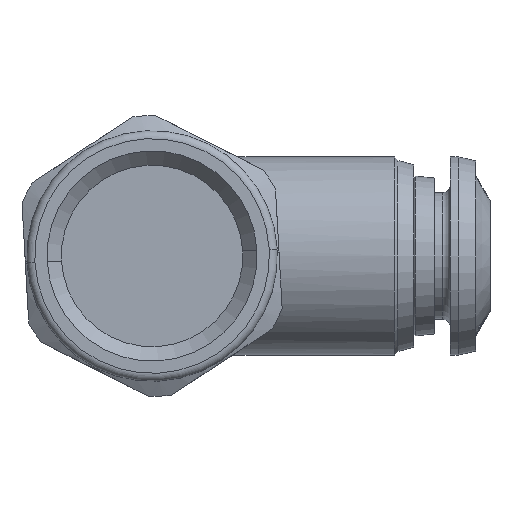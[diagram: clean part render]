
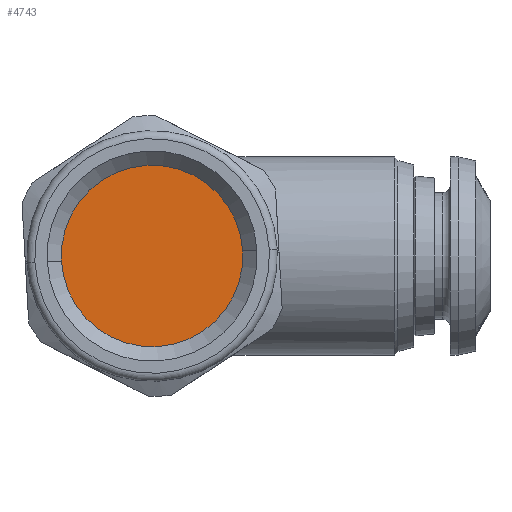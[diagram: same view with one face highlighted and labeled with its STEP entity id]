
A CAD part, front view. The second image highlights one B-rep face of the part: STEP entity #4743.
In plain terms, the highlighted planar face has unit normal (0, -1, 0).
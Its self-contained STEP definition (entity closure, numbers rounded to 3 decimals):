
#837 = ORIENTED_EDGE ( 'NONE', *, *, #3245, .F. ) ;
#838 = ORIENTED_EDGE ( 'NONE', *, *, #8688, .F. ) ;
#1157 = AXIS2_PLACEMENT_3D ( 'NONE', #11383, #11384, #11385 ) ;
#3245 = EDGE_CURVE ( 'NONE', #5621, #5618, #7865, .T. ) ;
#4415 = CARTESIAN_POINT ( 'NONE',  ( 0., -22.2, 0. ) ) ;
#4417 = PLANE ( 'NONE',  #11353 ) ;
#4419 = DIRECTION ( 'NONE',  ( 0., -1., 0. ) ) ;
#4420 = DIRECTION ( 'NONE',  ( 1., 0., 0. ) ) ;
#4743 = ADVANCED_FACE ( 'NONE', ( #7903 ), #4417, .T. ) ;
#5618 = VERTEX_POINT ( 'NONE', #9731 ) ;
#5621 = VERTEX_POINT ( 'NONE', #9734 ) ;
#6843 = CARTESIAN_POINT ( 'NONE',  ( 0., -22.2, 0. ) ) ;
#6844 = DIRECTION ( 'NONE',  ( 0., 1., 0. ) ) ;
#6845 = DIRECTION ( 'NONE',  ( 1., 0., 0. ) ) ;
#7865 = CIRCLE ( 'NONE', #11330, 5.722 ) ;
#7903 = FACE_OUTER_BOUND ( 'NONE', #8923, .T. ) ;
#8688 = EDGE_CURVE ( 'NONE', #5618, #5621, #9247, .T. ) ;
#8923 = EDGE_LOOP ( 'NONE', ( #837, #838 ) ) ;
#9247 = CIRCLE ( 'NONE', #1157, 5.722 ) ;
#9731 = CARTESIAN_POINT ( 'NONE',  ( 5.714, -22.2, 0.32 ) ) ;
#9734 = CARTESIAN_POINT ( 'NONE',  ( -5.714, -22.2, -0.32 ) ) ;
#11330 = AXIS2_PLACEMENT_3D ( 'NONE', #6843, #6844, #6845 ) ;
#11353 = AXIS2_PLACEMENT_3D ( 'NONE', #4415, #4419, #4420 ) ;
#11383 = CARTESIAN_POINT ( 'NONE',  ( 0., -22.2, 0. ) ) ;
#11384 = DIRECTION ( 'NONE',  ( 0., 1., 0. ) ) ;
#11385 = DIRECTION ( 'NONE',  ( 1., 0., 0. ) ) ;
